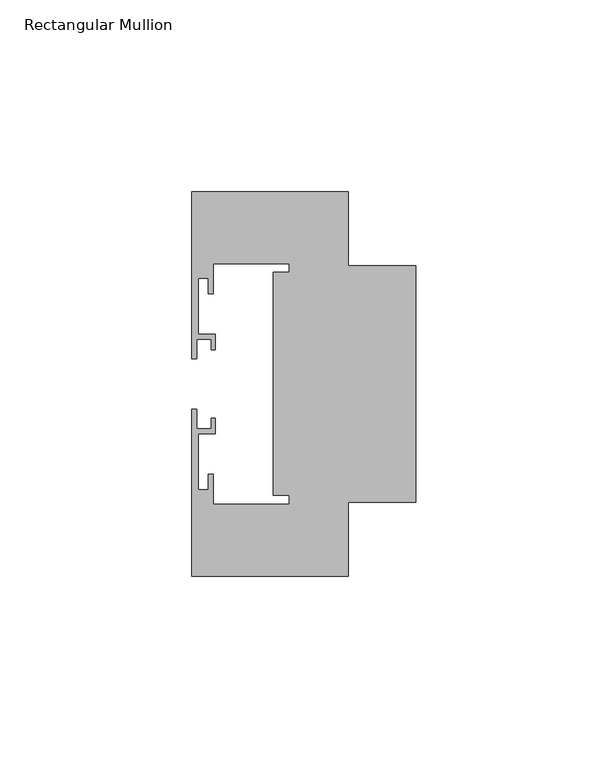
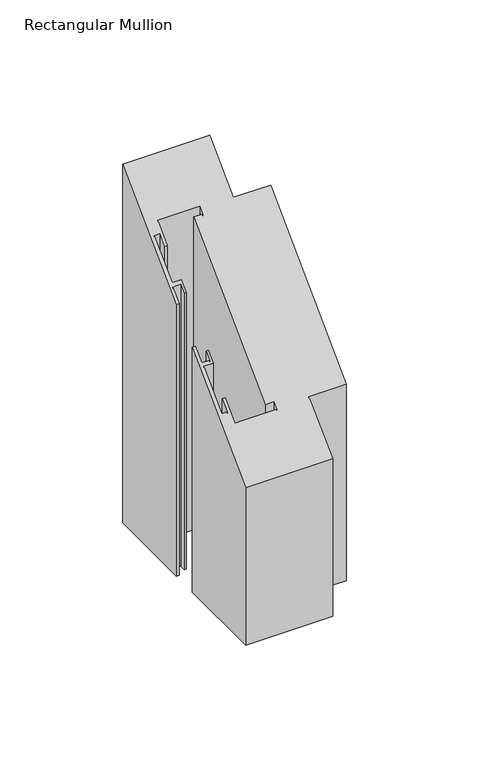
"""IFC4 building model written with IfcOpenShell, lengths in millimetres: member geometry, Rectangular Mullion : Frame-Teknion-OptosLP-Base_Channel."""

from ifc_helpers import new_model, si_unit, origin, place, context, project, spatial, faceted_brep, source, transform, mapped, element, save


def rectangular_mullion_07ef781c(model_context):
    return source(origin(), model_context, "Body", "Brep", [
        faceted_brep([(-17.6080204, 50.0127381, -128.240806), (-17.6080204, 30.8132734, -128.240806), (0.0, 30.8132734, -128.240806), (0.0, -30.8132734, -128.240806), (-17.6080204, -30.8132734, -128.240806), (-17.6080204, -50.0127381, -128.240806), (-58.3491472, -50.0127381, -128.240806), (-58.3491472, -6.5559427, -128.240806), (-57.0374251, -6.5559427, -128.240806), (-57.0374251, -11.7067955, -128.240806), (-53.2912811, -11.7067955, -128.240806), (-53.2912811, -8.897378, -128.240806), (-52.2608056, -8.897378, -128.240806), (-52.2608056, -12.9247686, -128.240806), (-56.6631918, -12.9247686, -128.240806), (-56.6631918, -27.5351116, -128.240806), (-54.1342588, -27.5351116, -128.240806), (-54.1342588, -23.5077209, -128.240806), (-52.8232989, -23.5077209, -128.240806), (-52.8232989, -31.3750045, -128.240806), (-33.061341, -31.3750045, -128.240806), (-33.061341, -29.0335692, -128.240806), (-37.1824805, -29.0335692, -128.240806), (-37.1824805, 29.0335692, -128.240806), (-33.061341, 29.0335692, -128.240806), (-33.061341, 31.3750045, -128.240806), (-52.8232989, 31.3750045, -128.240806), (-52.8232989, 23.5077209, -128.240806), (-54.1342588, 23.5077209, -128.240806), (-54.1342588, 27.5351116, -128.240806), (-56.6631918, 27.5351116, -128.240806), (-56.6631918, 12.9247686, -128.240806), (-52.2608056, 12.9247686, -128.240806), (-52.2608056, 8.897378, -128.240806), (-53.2912811, 8.897378, -128.240806), (-53.2912811, 11.7067955, -128.240806), (-57.0374251, 11.7067955, -128.240806), (-57.0374251, 6.5559427, -128.240806), (-58.3491472, 6.5559427, -128.240806), (-58.3491472, 50.0127381, -128.240806), (-58.3491472, 50.0127381, 50.0127381), (-17.6080204, 50.0127381, 50.0127381), (-58.3491472, 6.5559427, 6.5559427), (-57.0374251, 6.5559427, 6.5559427), (-57.0374251, 11.7067955, 11.7067955), (-53.2912811, 11.7067955, 11.7067955), (-53.2912811, 8.897378, 8.897378), (-52.2608056, 8.897378, 8.897378), (-52.2608056, 12.9247686, 12.9247686), (-56.6631918, 12.9247686, 12.9247686), (-56.6631918, 27.5351116, 27.5351116), (-54.1342588, 27.5351116, 27.5351116), (-54.1342588, 23.5077209, 23.5077209), (-52.8232989, 23.5077209, 23.5077209), (-52.8232989, 31.3750045, 31.3750045), (-33.061341, 31.3750045, 31.3750045), (-33.061341, 29.0335692, 29.0335692), (-37.1824805, 29.0335692, 29.0335692), (-37.1824805, -29.0335692, -29.0335692), (-33.061341, -29.0335692, -29.0335692), (-33.061341, -31.3750045, -31.3750045), (-52.8232989, -31.3750045, -31.3750045), (-52.8232989, -23.5077209, -23.5077209), (-54.1342588, -23.5077209, -23.5077209), (-54.1342588, -27.5351116, -27.5351116), (-56.6631918, -27.5351116, -27.5351116), (-56.6631918, -12.9247686, -12.9247686), (-52.2608056, -12.9247686, -12.9247686), (-52.2608056, -8.897378, -8.897378), (-53.2912811, -8.897378, -8.897378), (-53.2912811, -11.7067955, -11.7067955), (-57.0374251, -11.7067955, -11.7067955), (-57.0374251, -6.5559427, -6.5559427), (-58.3491472, -6.5559427, -6.5559427), (-58.3491472, -50.0127381, -50.0127381), (-17.6080204, -50.0127381, -50.0127381), (-17.6080204, -30.8132734, -30.8132734), (0.0, -30.8132734, -30.8132734), (0.0, 30.8132734, 30.8132734), (-17.6080204, 30.8132734, 30.8132734)], [[[0, 1, 2, 3, 4, 5, 6, 7, 8, 9, 10, 11, 12, 13, 14, 15, 16, 17, 18, 19, 20, 21, 22, 23, 24, 25, 26, 27, 28, 29, 30, 31, 32, 33, 34, 35, 36, 37, 38, 39]], [[40, 41, 0, 39]], [[42, 40, 39, 38]], [[43, 42, 38, 37]], [[44, 43, 37, 36]], [[45, 44, 36, 35]], [[46, 45, 35, 34]], [[47, 46, 34, 33]], [[48, 47, 33, 32]], [[49, 48, 32, 31]], [[50, 49, 31, 30]], [[51, 50, 30, 29]], [[52, 51, 29, 28]], [[53, 52, 28, 27]], [[54, 53, 27, 26]], [[55, 54, 26, 25]], [[56, 55, 25, 24]], [[57, 56, 24, 23]], [[58, 57, 23, 22]], [[59, 58, 22, 21]], [[60, 59, 21, 20]], [[61, 60, 20, 19]], [[62, 61, 19, 18]], [[63, 62, 18, 17]], [[64, 63, 17, 16]], [[65, 64, 16, 15]], [[66, 65, 15, 14]], [[67, 66, 14, 13]], [[68, 67, 13, 12]], [[69, 68, 12, 11]], [[70, 69, 11, 10]], [[71, 70, 10, 9]], [[72, 71, 9, 8]], [[73, 72, 8, 7]], [[74, 73, 7, 6]], [[75, 74, 6, 5]], [[76, 75, 5, 4]], [[77, 76, 4, 3]], [[78, 77, 3, 2]], [[79, 78, 2, 1]], [[41, 79, 1, 0]], [[41, 40, 42, 43, 44, 45, 46, 47, 48, 49, 50, 51, 52, 53, 54, 55, 56, 57, 58, 59, 60, 61, 62, 63, 64, 65, 66, 67, 68, 69, 70, 71, 72, 73, 74, 75, 76, 77, 78, 79]]]),
    ])


if __name__ == "__main__":
    model = new_model("IFC4")
    model_context = context("Model", 3, world=origin())
    ifc_project = project(units=[si_unit("LENGTHUNIT", "METRE", prefix="MILLI")], contexts=[model_context])
    site = spatial("IfcSite", under=ifc_project)
    building = spatial("IfcBuilding", under=site)
    placement = place(None, origin())
    rectangular_mullion_shape = rectangular_mullion_07ef781c(model_context)
    element("IfcMember", 1, ObjectType="Rectangular Mullion : Frame-Teknion-OptosLP-Base_Channel", at=placement, inside=building, context=model_context, shape_type="MappedRepresentation", body=[
        mapped(rectangular_mullion_shape, transform((0.0, 0.0, 0.0), x_axis=(1.0, 0.0, 0.0), y_axis=(0.0, 1.0, 0.0), z_axis=(0.0, 0.0, 1.0))),
    ])
    save(model, "model.ifc")
